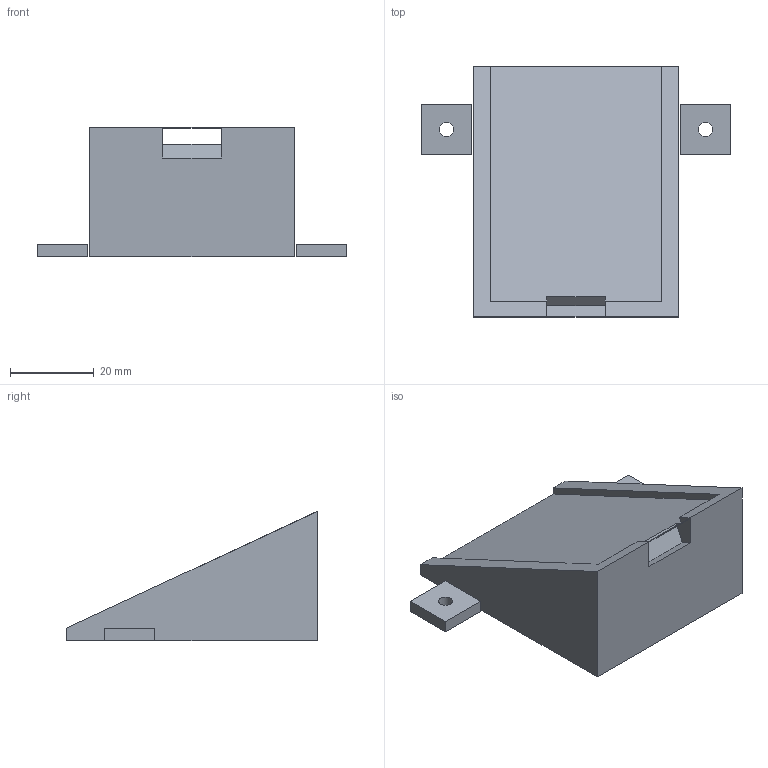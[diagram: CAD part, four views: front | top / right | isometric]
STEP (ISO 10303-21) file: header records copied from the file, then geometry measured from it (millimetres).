
FILE_DESCRIPTION(('Open CASCADE Model'),'2;1');
FILE_NAME('Open CASCADE Shape Model','2026-10-18T06:41:05',('Author'),( 'Open CASCADE'),'Open CASCADE STEP processor 7.9','Open CASCADE 7.9' ,'Unknown');
FILE_SCHEMA(('AUTOMOTIVE_DESIGN { 1 0 10303 214 1 1 1 1 }'));
Length unit declared in the file: millimetre
Products named in the file (4): Open CASCADE STEP translator 7.9 5; Open CASCADE STEP translator 7.9 5.1; Open CASCADE STEP translator 7.9 5.2; Open CASCADE STEP translator 7.9 5.3
Assembly tree (3 placements, depth 2):
  Open CASCADE STEP translator 7.9 5
    Open CASCADE STEP translator 7.9 5.1
    Open CASCADE STEP translator 7.9 5.2
    Open CASCADE STEP translator 7.9 5.3
Bounding box: 74 x 59.85 x 30.91 mm (x, y, z)
Volume: 45981.6 mm3; surface area: 10938.7 mm2
Topology: 3 solids, 3 shells, 30 faces, 75 edges, 50 vertices
Faces by surface type: plane 28, cylinder 2
Full cylindrical faces by diameter (mm): 3.4 x2
Entity records: 1930 total; most frequent: CARTESIAN_POINT 309, DIRECTION 297, LINE 217, VECTOR 217, ORIENTED_EDGE 150, PCURVE 150, DEFINITIONAL_REPRESENTATION 150, EDGE_CURVE 75
